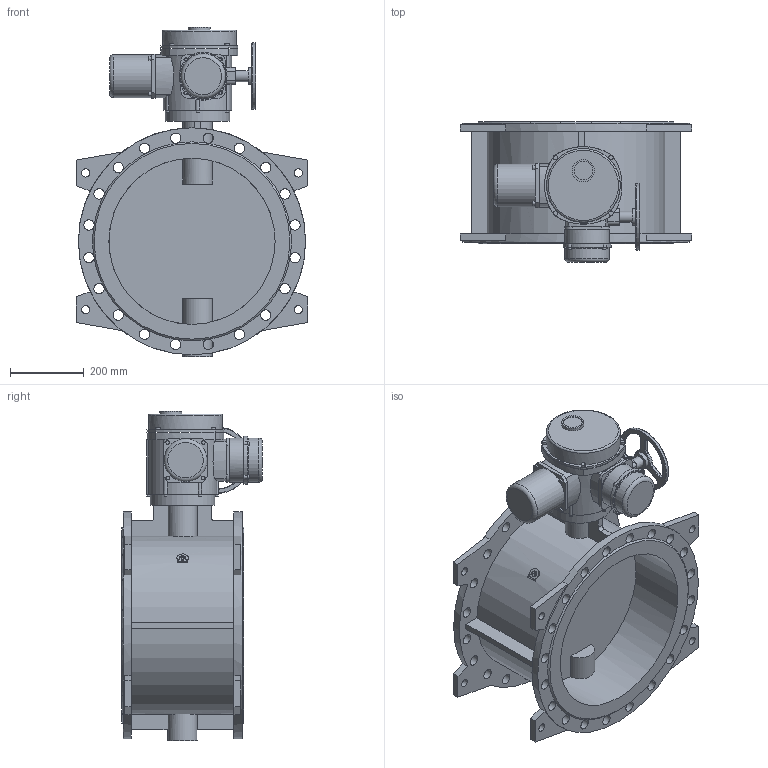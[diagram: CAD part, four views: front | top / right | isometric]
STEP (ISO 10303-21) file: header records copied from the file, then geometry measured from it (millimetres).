
FILE_DESCRIPTION(('STEP AP203'), '1');
FILE_NAME('青蜮铕 023F.Z DN450 PN10_菹_QT.Z120(F14)-180', '', ('UNSPECIFIED'), ('UNSPECIFIED'), 'ASCON STEP Converter 1.6', 'ASCON Math Kernel', '');
FILE_SCHEMA(('CONFIG_CONTROL_DESIGN'));
Length unit declared in the file: millimetre
Bounding box: 626 x 381 x 893 mm (x, y, z)
Volume: 32744404.7 mm3; surface area: 2463480.9 mm2
Topology: 1 solids, 1 shells, 398 faces, 1121 edges, 712 vertices
Faces by surface type: cylinder 185, plane 148, torus 47, cone 10, bspline 8
Full cylindrical faces by diameter (mm): 8 x10, 10 x4, 10.106 x4, 12 x4, 12.386 x1, 18 x4, 22 x8, 28 x40, 30 x1, 45 x1, 50 x1, 60 x1, 80 x1, 116 x1, 120 x2, 175 x1, 180 x1, 200 x1, 450 x2, 615 x2
Entity records: 20299 total; most frequent: CARTESIAN_POINT 6810, DIRECTION 2256, ORIENTED_EDGE 2000, EDGE_CURVE 1000, AXIS2_PLACEMENT_3D 959, VERTEX_POINT 707, EDGE_LOOP 606, CIRCLE 568
